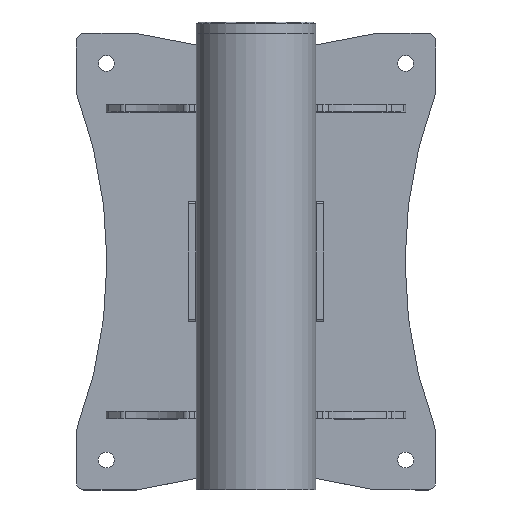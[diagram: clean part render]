
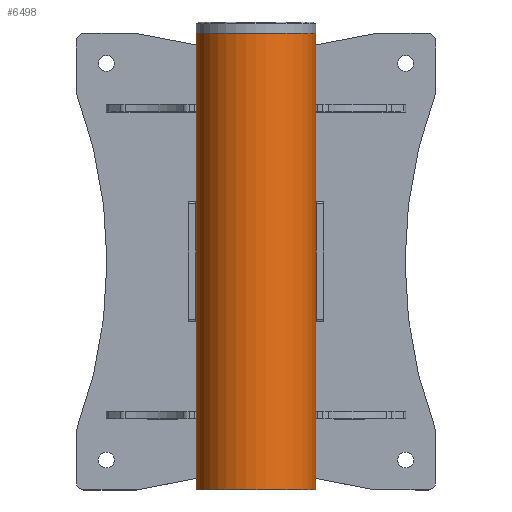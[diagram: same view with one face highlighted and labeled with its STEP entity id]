
A CAD part, top view. The second image highlights one B-rep face of the part: STEP entity #6498.
In plain terms, the highlighted cylindrical face has radius 50.8 mm (diameter 101.6 mm), a partial arc.
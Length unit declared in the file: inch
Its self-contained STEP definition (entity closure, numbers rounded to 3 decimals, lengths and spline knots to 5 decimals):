
#466 = ORIENTED_EDGE ( 'NONE', *, *, #2275, .T. ) ;
#726 = CIRCLE ( 'NONE', #4068, 2. ) ;
#881 = EDGE_CURVE ( 'NONE', #3154, #2691, #2786, .T. ) ;
#949 = CARTESIAN_POINT ( 'NONE',  ( 2., 0., 0. ) ) ;
#1426 = VECTOR ( 'NONE', #4858, 39.37008 ) ;
#1433 = DIRECTION ( 'NONE',  ( -1., 0., 0. ) ) ;
#1688 = EDGE_LOOP ( 'NONE', ( #4042, #5538, #2413, #466 ) ) ;
#1759 = LINE ( 'NONE', #3813, #1426 ) ;
#2175 = DIRECTION ( 'NONE',  ( 0., 0., 1. ) ) ;
#2275 = EDGE_CURVE ( 'NONE', #6172, #2887, #726, .T. ) ;
#2308 = DIRECTION ( 'NONE',  ( 1., 0., 0. ) ) ;
#2413 = ORIENTED_EDGE ( 'NONE', *, *, #2487, .T. ) ;
#2479 = CARTESIAN_POINT ( 'NONE',  ( -2., 0., 0. ) ) ;
#2487 = EDGE_CURVE ( 'NONE', #3154, #6172, #1759, .T. ) ;
#2663 = VECTOR ( 'NONE', #6392, 39.37008 ) ;
#2691 = VERTEX_POINT ( 'NONE', #6657 ) ;
#2786 = CIRCLE ( 'NONE', #6550, 2. ) ;
#2876 = LINE ( 'NONE', #3409, #2663 ) ;
#2887 = VERTEX_POINT ( 'NONE', #949 ) ;
#3154 = VERTEX_POINT ( 'NONE', #5749 ) ;
#3317 = CARTESIAN_POINT ( 'NONE',  ( 0., 0., 0. ) ) ;
#3409 = CARTESIAN_POINT ( 'NONE',  ( 2., 0., 15.25 ) ) ;
#3813 = CARTESIAN_POINT ( 'NONE',  ( -2., 0., 15.25 ) ) ;
#4042 = ORIENTED_EDGE ( 'NONE', *, *, #6417, .F. ) ;
#4068 = AXIS2_PLACEMENT_3D ( 'NONE', #3317, #5366, #2308 ) ;
#4858 = DIRECTION ( 'NONE',  ( 0., 0., -1. ) ) ;
#5110 = FACE_OUTER_BOUND ( 'NONE', #1688, .T. ) ;
#5366 = DIRECTION ( 'NONE',  ( 0., 0., 1. ) ) ;
#5538 = ORIENTED_EDGE ( 'NONE', *, *, #881, .F. ) ;
#5645 = DIRECTION ( 'NONE',  ( 0., 0., -1. ) ) ;
#5731 = AXIS2_PLACEMENT_3D ( 'NONE', #6060, #5645, #1433 ) ;
#5749 = CARTESIAN_POINT ( 'NONE',  ( -2., 0., 15.25 ) ) ;
#5915 = DIRECTION ( 'NONE',  ( 1., 0., 0. ) ) ;
#6060 = CARTESIAN_POINT ( 'NONE',  ( 0., 0., 15.25 ) ) ;
#6172 = VERTEX_POINT ( 'NONE', #2479 ) ;
#6371 = CARTESIAN_POINT ( 'NONE',  ( 0., 0., 15.25 ) ) ;
#6392 = DIRECTION ( 'NONE',  ( 0., 0., -1. ) ) ;
#6417 = EDGE_CURVE ( 'NONE', #2691, #2887, #2876, .T. ) ;
#6498 = ADVANCED_FACE ( 'NONE', ( #5110 ), #6647, .T. ) ;
#6550 = AXIS2_PLACEMENT_3D ( 'NONE', #6371, #2175, #5915 ) ;
#6647 = CYLINDRICAL_SURFACE ( 'NONE', #5731, 2. ) ;
#6657 = CARTESIAN_POINT ( 'NONE',  ( 2., 0., 15.25 ) ) ;
